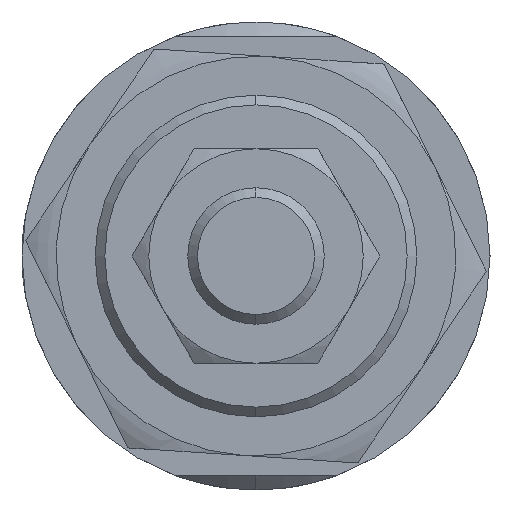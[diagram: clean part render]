
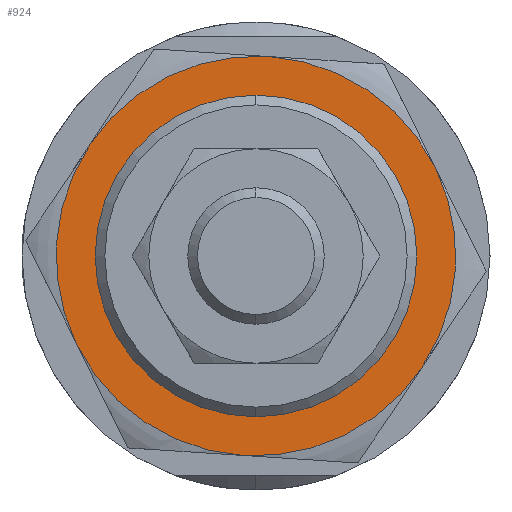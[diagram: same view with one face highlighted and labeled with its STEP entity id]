
A CAD part, left-side view. The second image highlights one B-rep face of the part: STEP entity #924.
In plain terms, the highlighted planar face has unit normal (-1, 0, 0) as drawn and (0, 0, -1) by its records, which use the part's own axes.
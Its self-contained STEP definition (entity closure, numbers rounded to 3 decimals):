
#5 = DIRECTION ( 'NONE',  ( 0., 0., 1. ) ) ;
#48 = CIRCLE ( 'NONE', #123, 20.5 ) ;
#100 = CIRCLE ( 'NONE', #2382, 20.5 ) ;
#123 = AXIS2_PLACEMENT_3D ( 'NONE', #1111, #2154, #1079 ) ;
#133 = AXIS2_PLACEMENT_3D ( 'NONE', #1551, #5, #3130 ) ;
#162 = PLANE ( 'NONE',  #1452 ) ;
#225 = DIRECTION ( 'NONE',  ( 1., 0., 0. ) ) ;
#265 = CARTESIAN_POINT ( 'NONE',  ( 10.25, 17.754, -5.5 ) ) ;
#308 = DIRECTION ( 'NONE',  ( 1., 0., 0. ) ) ;
#343 = ORIENTED_EDGE ( 'NONE', *, *, #1548, .F. ) ;
#347 = VERTEX_POINT ( 'NONE', #2734 ) ;
#469 = DIRECTION ( 'NONE',  ( 0., 0., 1. ) ) ;
#480 = VERTEX_POINT ( 'NONE', #1772 ) ;
#511 = EDGE_CURVE ( 'NONE', #2745, #347, #645, .T. ) ;
#573 = VERTEX_POINT ( 'NONE', #2581 ) ;
#575 = ORIENTED_EDGE ( 'NONE', *, *, #511, .F. ) ;
#612 = ORIENTED_EDGE ( 'NONE', *, *, #1263, .F. ) ;
#645 = CIRCLE ( 'NONE', #2907, 20.5 ) ;
#708 = VERTEX_POINT ( 'NONE', #877 ) ;
#712 = CARTESIAN_POINT ( 'NONE',  ( 0., 0., -5.5 ) ) ;
#777 = CARTESIAN_POINT ( 'NONE',  ( 20.5, 0., -5.5 ) ) ;
#788 = AXIS2_PLACEMENT_3D ( 'NONE', #1644, #867, #894 ) ;
#867 = DIRECTION ( 'NONE',  ( 0., 0., 1. ) ) ;
#876 = AXIS2_PLACEMENT_3D ( 'NONE', #712, #1505, #225 ) ;
#877 = CARTESIAN_POINT ( 'NONE',  ( 10.25, -17.754, -5.5 ) ) ;
#894 = DIRECTION ( 'NONE',  ( 1., 0., 0. ) ) ;
#924 = ADVANCED_FACE ( 'NONE', ( #1768, #1855 ), #162, .F. ) ;
#931 = CARTESIAN_POINT ( 'NONE',  ( 15.5, 0., -5.5 ) ) ;
#939 = EDGE_LOOP ( 'NONE', ( #2381, #2512 ) ) ;
#947 = CIRCLE ( 'NONE', #1311, 20.5 ) ;
#974 = ORIENTED_EDGE ( 'NONE', *, *, #2168, .F. ) ;
#1072 = CARTESIAN_POINT ( 'NONE',  ( -20.5, 0., -5.5 ) ) ;
#1079 = DIRECTION ( 'NONE',  ( 1., 0., 0. ) ) ;
#1095 = VERTEX_POINT ( 'NONE', #777 ) ;
#1111 = CARTESIAN_POINT ( 'NONE',  ( 0., 0., -5.5 ) ) ;
#1133 = EDGE_CURVE ( 'NONE', #708, #1095, #947, .T. ) ;
#1185 = VERTEX_POINT ( 'NONE', #931 ) ;
#1262 = AXIS2_PLACEMENT_3D ( 'NONE', #2021, #469, #3298 ) ;
#1263 = EDGE_CURVE ( 'NONE', #2898, #480, #100, .T. ) ;
#1311 = AXIS2_PLACEMENT_3D ( 'NONE', #2724, #1725, #1977 ) ;
#1398 = DIRECTION ( 'NONE',  ( 1., 0., 0. ) ) ;
#1452 = AXIS2_PLACEMENT_3D ( 'NONE', #1694, #3244, #1398 ) ;
#1505 = DIRECTION ( 'NONE',  ( 0., 0., 1. ) ) ;
#1548 = EDGE_CURVE ( 'NONE', #347, #2898, #3211, .T. ) ;
#1551 = CARTESIAN_POINT ( 'NONE',  ( 0., 0., -5.5 ) ) ;
#1644 = CARTESIAN_POINT ( 'NONE',  ( 0., 0., -5.5 ) ) ;
#1694 = CARTESIAN_POINT ( 'NONE',  ( 0., 0., -5.5 ) ) ;
#1725 = DIRECTION ( 'NONE',  ( 0., 0., 1. ) ) ;
#1768 = FACE_BOUND ( 'NONE', #939, .T. ) ;
#1772 = CARTESIAN_POINT ( 'NONE',  ( -10.25, -17.754, -5.5 ) ) ;
#1786 = DIRECTION ( 'NONE',  ( 1., 0., 0. ) ) ;
#1802 = EDGE_CURVE ( 'NONE', #1185, #573, #1827, .T. ) ;
#1827 = CIRCLE ( 'NONE', #133, 15.5 ) ;
#1855 = FACE_OUTER_BOUND ( 'NONE', #2062, .T. ) ;
#1929 = EDGE_CURVE ( 'NONE', #480, #708, #48, .T. ) ;
#1977 = DIRECTION ( 'NONE',  ( 1., 0., 0. ) ) ;
#2021 = CARTESIAN_POINT ( 'NONE',  ( 0., 0., -5.5 ) ) ;
#2062 = EDGE_LOOP ( 'NONE', ( #974, #3242, #3227, #612, #343, #575 ) ) ;
#2088 = CARTESIAN_POINT ( 'NONE',  ( 0., 0., -5.5 ) ) ;
#2154 = DIRECTION ( 'NONE',  ( 0., 0., 1. ) ) ;
#2168 = EDGE_CURVE ( 'NONE', #1095, #2745, #3303, .T. ) ;
#2381 = ORIENTED_EDGE ( 'NONE', *, *, #1802, .T. ) ;
#2382 = AXIS2_PLACEMENT_3D ( 'NONE', #2088, #2616, #308 ) ;
#2501 = EDGE_CURVE ( 'NONE', #573, #1185, #2600, .T. ) ;
#2512 = ORIENTED_EDGE ( 'NONE', *, *, #2501, .T. ) ;
#2544 = CARTESIAN_POINT ( 'NONE',  ( 0., 0., -5.5 ) ) ;
#2581 = CARTESIAN_POINT ( 'NONE',  ( -15.5, 0., -5.5 ) ) ;
#2600 = CIRCLE ( 'NONE', #788, 15.5 ) ;
#2616 = DIRECTION ( 'NONE',  ( 0., 0., 1. ) ) ;
#2724 = CARTESIAN_POINT ( 'NONE',  ( 0., 0., -5.5 ) ) ;
#2734 = CARTESIAN_POINT ( 'NONE',  ( -10.25, 17.754, -5.5 ) ) ;
#2745 = VERTEX_POINT ( 'NONE', #265 ) ;
#2898 = VERTEX_POINT ( 'NONE', #1072 ) ;
#2907 = AXIS2_PLACEMENT_3D ( 'NONE', #2544, #3309, #1786 ) ;
#3130 = DIRECTION ( 'NONE',  ( 1., 0., 0. ) ) ;
#3211 = CIRCLE ( 'NONE', #876, 20.5 ) ;
#3227 = ORIENTED_EDGE ( 'NONE', *, *, #1929, .F. ) ;
#3242 = ORIENTED_EDGE ( 'NONE', *, *, #1133, .F. ) ;
#3244 = DIRECTION ( 'NONE',  ( 0., 0., 1. ) ) ;
#3298 = DIRECTION ( 'NONE',  ( 1., 0., 0. ) ) ;
#3303 = CIRCLE ( 'NONE', #1262, 20.5 ) ;
#3309 = DIRECTION ( 'NONE',  ( 0., 0., 1. ) ) ;
